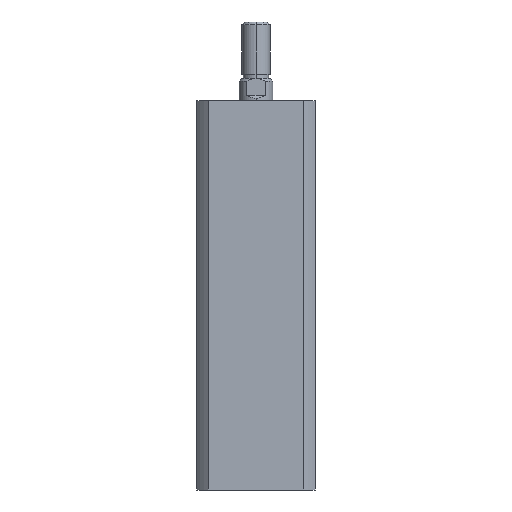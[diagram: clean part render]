
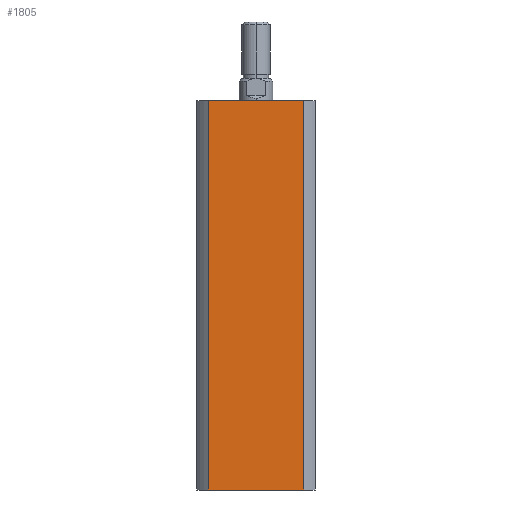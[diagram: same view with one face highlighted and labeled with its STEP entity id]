
A CAD part, left-side view. The second image highlights one B-rep face of the part: STEP entity #1805.
In plain terms, the highlighted planar face has unit normal (-1, 0, 0).
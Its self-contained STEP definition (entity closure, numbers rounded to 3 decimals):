
#530 = DIRECTION ( 'NONE',  ( 0., -1., 0. ) ) ;
#534 = CARTESIAN_POINT ( 'NONE',  ( -21., 21., 0. ) ) ;
#873 = ORIENTED_EDGE ( 'NONE', *, *, #3719, .F. ) ;
#874 = ORIENTED_EDGE ( 'NONE', *, *, #3711, .F. ) ;
#875 = ORIENTED_EDGE ( 'NONE', *, *, #3720, .F. ) ;
#876 = ORIENTED_EDGE ( 'NONE', *, *, #3673, .T. ) ;
#1162 = LINE ( 'NONE', #2281, #1167 ) ;
#1167 = VECTOR ( 'NONE', #2275, 1000. ) ;
#1178 = LINE ( 'NONE', #2300, #1181 ) ;
#1180 = LINE ( 'NONE', #2302, #1183 ) ;
#1181 = VECTOR ( 'NONE', #2301, 1000. ) ;
#1183 = VECTOR ( 'NONE', #2303, 1000. ) ;
#1805 = ADVANCED_FACE ( 'NONE', ( #4320 ), #4568, .F. ) ;
#1890 = AXIS2_PLACEMENT_3D ( 'NONE', #4561, #4570, #4571 ) ;
#1921 = VERTEX_POINT ( 'NONE', #4619 ) ;
#1943 = VERTEX_POINT ( 'NONE', #4645 ) ;
#1951 = VERTEX_POINT ( 'NONE', #4652 ) ;
#2275 = DIRECTION ( 'NONE',  ( 0., -1., 0. ) ) ;
#2281 = CARTESIAN_POINT ( 'NONE',  ( -21., 21., 138. ) ) ;
#2300 = CARTESIAN_POINT ( 'NONE',  ( -21., -16.971, 138. ) ) ;
#2301 = DIRECTION ( 'NONE',  ( 0., 0., -1. ) ) ;
#2302 = CARTESIAN_POINT ( 'NONE',  ( -21., 16.971, 138. ) ) ;
#2303 = DIRECTION ( 'NONE',  ( 0., 0., 1. ) ) ;
#2853 = CARTESIAN_POINT ( 'NONE',  ( -21., -16.971, 138. ) ) ;
#3186 = EDGE_LOOP ( 'NONE', ( #873, #874, #875, #876 ) ) ;
#3673 = EDGE_CURVE ( 'NONE', #1951, #1943, #4524, .T. ) ;
#3711 = EDGE_CURVE ( 'NONE', #1921, #4825, #1162, .T. ) ;
#3719 = EDGE_CURVE ( 'NONE', #4825, #1943, #1178, .T. ) ;
#3720 = EDGE_CURVE ( 'NONE', #1951, #1921, #1180, .T. ) ;
#4320 = FACE_OUTER_BOUND ( 'NONE', #3186, .T. ) ;
#4524 = LINE ( 'NONE', #534, #4526 ) ;
#4526 = VECTOR ( 'NONE', #530, 1000. ) ;
#4561 = CARTESIAN_POINT ( 'NONE',  ( -21., 21., 138. ) ) ;
#4568 = PLANE ( 'NONE',  #1890 ) ;
#4570 = DIRECTION ( 'NONE',  ( 1., 0., 0. ) ) ;
#4571 = DIRECTION ( 'NONE',  ( 0., 1., 0. ) ) ;
#4619 = CARTESIAN_POINT ( 'NONE',  ( -21., 16.971, 138. ) ) ;
#4645 = CARTESIAN_POINT ( 'NONE',  ( -21., -16.971, 0. ) ) ;
#4652 = CARTESIAN_POINT ( 'NONE',  ( -21., 16.971, 0. ) ) ;
#4825 = VERTEX_POINT ( 'NONE', #2853 ) ;
